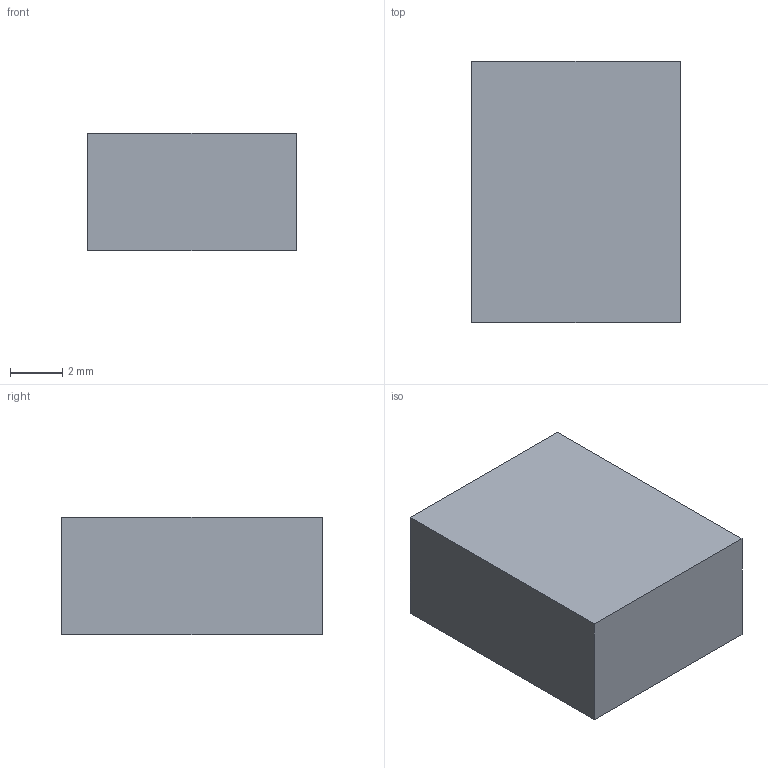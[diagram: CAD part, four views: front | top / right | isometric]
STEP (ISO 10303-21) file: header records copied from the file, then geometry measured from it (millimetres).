
FILE_DESCRIPTION(('Open CASCADE Model'),'2;1');
FILE_NAME('Open CASCADE Shape Model','2026-10-04T02:31:40',('Author'),( 'Open CASCADE'),'Open CASCADE STEP processor 8.0','Open CASCADE 8.0' ,'Unknown');
FILE_SCHEMA(('AUTOMOTIVE_DESIGN { 1 0 10303 214 1 1 1 1 }'));
Length unit declared in the file: millimetre
Products named in the file (1): Open CASCADE STEP translator 8.0 203
Bounding box: 8 x 10 x 4.5 mm (x, y, z)
Volume: 360 mm3; surface area: 322 mm2
Topology: 1 solids, 1 shells, 6 faces, 12 edges, 8 vertices
Faces by surface type: plane 6
Entity records: 322 total; most frequent: CARTESIAN_POINT 51, DIRECTION 50, LINE 36, VECTOR 36, ORIENTED_EDGE 24, PCURVE 24, DEFINITIONAL_REPRESENTATION 24, EDGE_CURVE 12
